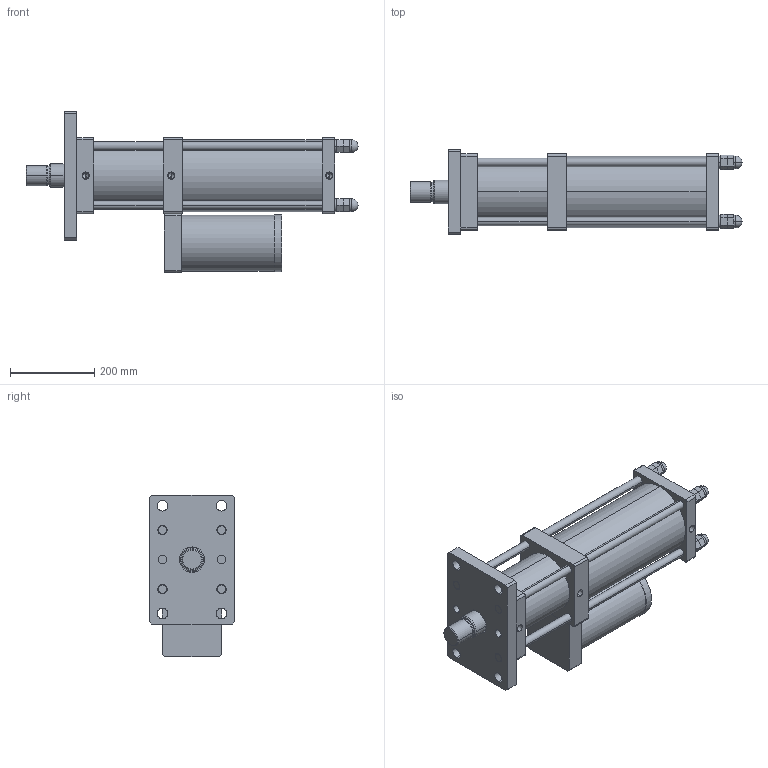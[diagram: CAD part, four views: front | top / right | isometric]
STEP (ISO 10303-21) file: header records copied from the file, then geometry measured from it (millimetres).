
FILE_DESCRIPTION (( 'STEP AP203' ), '1' );
FILE_NAME ('CPT-125-50-15-20T.STEP', '2016-03-12T01:42:31', ( 'WIN' ), ( '' ), 'SwSTEP 2.0', 'SolidWorks 2014', '' );
FILE_SCHEMA (( 'CONFIG_CONTROL_DESIGN' ));
Length unit declared in the file: millimetre
Products named in the file (1): CPT-125-50-15-20T
Bounding box: 786 x 200 x 382.5 mm (x, y, z)
Volume: 17947240.8 mm3; surface area: 1207370.2 mm2
Topology: 17 solids, 17 shells, 318 faces, 726 edges, 454 vertices
Faces by surface type: plane 154, cylinder 122, cone 30, sphere 8, torus 4
Entity records: 8889 total; most frequent: DIRECTION 1638, CARTESIAN_POINT 1467, ORIENTED_EDGE 1404, EDGE_CURVE 702, AXIS2_PLACEMENT_3D 617, VERTEX_POINT 446, LINE 404, VECTOR 404
